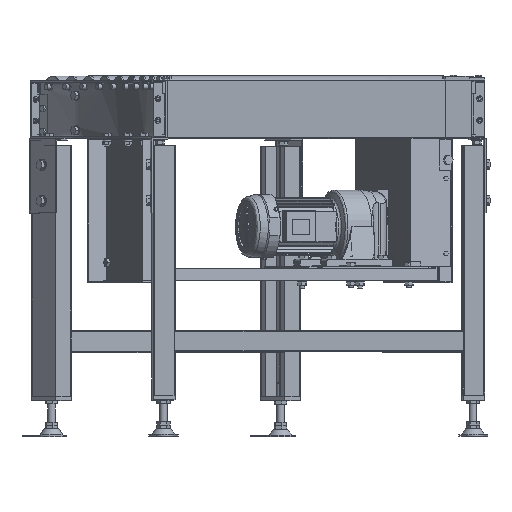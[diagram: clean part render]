
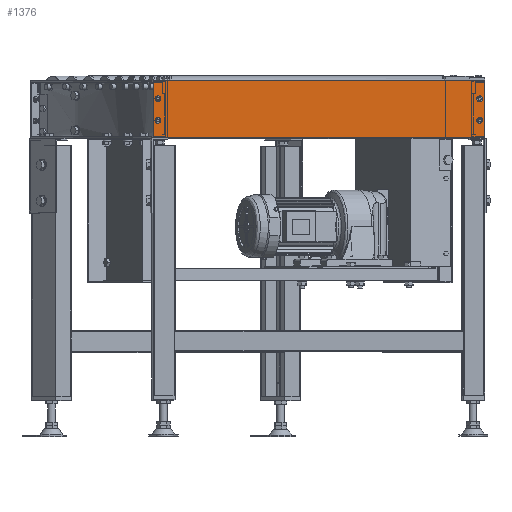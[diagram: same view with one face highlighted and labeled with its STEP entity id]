
A CAD part, top view. The second image highlights one B-rep face of the part: STEP entity #1376.
In plain terms, the highlighted planar face has unit normal (0, 0, 1).
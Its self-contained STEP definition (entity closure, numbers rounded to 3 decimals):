
#1376=ADVANCED_FACE('',(#9265,#9266,#9267,#9268,#9269),#9264,.F.);
#9264=PLANE('',#33990);
#9265=FACE_OUTER_BOUND('',#33991,.T.);
#9266=FACE_BOUND('',#33992,.T.);
#9267=FACE_BOUND('',#33993,.T.);
#9268=FACE_BOUND('',#33994,.T.);
#9269=FACE_BOUND('',#33995,.T.);
#33987=CARTESIAN_POINT('',(1570.,-140.,1.2));
#33988=DIRECTION('',(0.,0.,-1.));
#33989=DIRECTION('',(-1.,0.,0.));
#33990=AXIS2_PLACEMENT_3D('',#33987,#33988,#33989);
#33991=EDGE_LOOP('',(#48248,#48249,#48250,#48251));
#33992=EDGE_LOOP('',(#48252,#48253));
#33993=EDGE_LOOP('',(#48254,#48255));
#33994=EDGE_LOOP('',(#48256,#48257));
#33995=EDGE_LOOP('',(#48258,#48259));
#48248=ORIENTED_EDGE('',*,*,#60514,.F.);
#48249=ORIENTED_EDGE('',*,*,#60526,.F.);
#48250=ORIENTED_EDGE('',*,*,#59671,.F.);
#48251=ORIENTED_EDGE('',*,*,#60525,.F.);
#48252=ORIENTED_EDGE('',*,*,#59147,.T.);
#48253=ORIENTED_EDGE('',*,*,#59148,.T.);
#48254=ORIENTED_EDGE('',*,*,#59156,.T.);
#48255=ORIENTED_EDGE('',*,*,#59157,.T.);
#48256=ORIENTED_EDGE('',*,*,#59153,.T.);
#48257=ORIENTED_EDGE('',*,*,#59154,.T.);
#48258=ORIENTED_EDGE('',*,*,#59150,.T.);
#48259=ORIENTED_EDGE('',*,*,#59151,.T.);
#59147=EDGE_CURVE('',#66940,#66933,#66941,.T.);
#59148=EDGE_CURVE('',#66933,#66940,#66947,.T.);
#59150=EDGE_CURVE('',#66960,#66953,#66961,.T.);
#59151=EDGE_CURVE('',#66953,#66960,#66967,.T.);
#59153=EDGE_CURVE('',#66980,#66973,#66981,.T.);
#59154=EDGE_CURVE('',#66973,#66980,#66987,.T.);
#59156=EDGE_CURVE('',#67000,#66993,#67001,.T.);
#59157=EDGE_CURVE('',#66993,#67000,#67007,.T.);
#59671=EDGE_CURVE('',#70465,#70472,#70473,.T.);
#60514=EDGE_CURVE('',#76072,#76079,#76080,.T.);
#60525=EDGE_CURVE('',#76079,#70465,#76149,.T.);
#60526=EDGE_CURVE('',#70472,#76072,#76155,.T.);
#66933=VERTEX_POINT('',#113656);
#66940=VERTEX_POINT('',#113659);
#66941=CIRCLE('',#113663,3.);
#66947=CIRCLE('',#113667,3.);
#66953=VERTEX_POINT('',#113668);
#66960=VERTEX_POINT('',#113671);
#66961=CIRCLE('',#113675,3.);
#66967=CIRCLE('',#113679,3.);
#66973=VERTEX_POINT('',#113680);
#66980=VERTEX_POINT('',#113683);
#66981=CIRCLE('',#113687,3.);
#66987=CIRCLE('',#113691,3.);
#66993=VERTEX_POINT('',#113692);
#67000=VERTEX_POINT('',#113695);
#67001=CIRCLE('',#113699,3.);
#67007=CIRCLE('',#113703,3.);
#70465=VERTEX_POINT('',#119607);
#70472=VERTEX_POINT('',#119611);
#70473=LINE('',#119612,#119613);
#76072=VERTEX_POINT('',#122921);
#76079=VERTEX_POINT('',#122925);
#76080=LINE('',#122926,#122927);
#76149=LINE('',#122964,#122965);
#76155=LINE('',#122967,#122968);
#113656=CARTESIAN_POINT('',(1552.7,-93.5,1.2));
#113659=CARTESIAN_POINT('',(1546.7,-93.5,1.2));
#113660=CARTESIAN_POINT('',(1549.7,-93.5,1.2));
#113661=DIRECTION('',(0.,0.,-1.));
#113662=DIRECTION('',(-1.,0.,0.));
#113663=AXIS2_PLACEMENT_3D('',#113660,#113661,#113662);
#113664=CARTESIAN_POINT('',(1549.7,-93.5,1.2));
#113665=DIRECTION('',(0.,0.,-1.));
#113666=DIRECTION('',(-1.,0.,0.));
#113667=AXIS2_PLACEMENT_3D('',#113664,#113665,#113666);
#113668=CARTESIAN_POINT('',(1552.7,-48.5,1.2));
#113671=CARTESIAN_POINT('',(1546.7,-48.5,1.2));
#113672=CARTESIAN_POINT('',(1549.7,-48.5,1.2));
#113673=DIRECTION('',(0.,0.,-1.));
#113674=DIRECTION('',(-1.,0.,0.));
#113675=AXIS2_PLACEMENT_3D('',#113672,#113673,#113674);
#113676=CARTESIAN_POINT('',(1549.7,-48.5,1.2));
#113677=DIRECTION('',(0.,0.,-1.));
#113678=DIRECTION('',(-1.,0.,0.));
#113679=AXIS2_PLACEMENT_3D('',#113676,#113677,#113678);
#113680=CARTESIAN_POINT('',(880.306,-96.5,1.2));
#113683=CARTESIAN_POINT('',(877.306,-93.5,1.2));
#113684=CARTESIAN_POINT('',(880.306,-93.5,1.2));
#113685=DIRECTION('',(0.,0.,-1.));
#113686=DIRECTION('',(-1.,0.,0.));
#113687=AXIS2_PLACEMENT_3D('',#113684,#113685,#113686);
#113688=CARTESIAN_POINT('',(880.306,-93.5,1.2));
#113689=DIRECTION('',(0.,0.,-1.));
#113690=DIRECTION('',(-1.,0.,0.));
#113691=AXIS2_PLACEMENT_3D('',#113688,#113689,#113690);
#113692=CARTESIAN_POINT('',(880.306,-51.5,1.2));
#113695=CARTESIAN_POINT('',(877.306,-48.5,1.2));
#113696=CARTESIAN_POINT('',(880.306,-48.5,1.2));
#113697=DIRECTION('',(0.,0.,-1.));
#113698=DIRECTION('',(-1.,0.,0.));
#113699=AXIS2_PLACEMENT_3D('',#113696,#113697,#113698);
#113700=CARTESIAN_POINT('',(880.306,-48.5,1.2));
#113701=DIRECTION('',(0.,0.,-1.));
#113702=DIRECTION('',(-1.,0.,0.));
#113703=AXIS2_PLACEMENT_3D('',#113700,#113701,#113702);
#119607=CARTESIAN_POINT('',(870.,-10.,1.2));
#119611=CARTESIAN_POINT('',(1560.,-10.,1.2));
#119612=CARTESIAN_POINT('',(870.,-10.,1.2));
#119613=VECTOR('',#119614,690.);
#119614=DIRECTION('',(1.,0.,0.));
#122921=CARTESIAN_POINT('',(1560.,-130.,1.2));
#122925=CARTESIAN_POINT('',(870.,-130.,1.2));
#122926=CARTESIAN_POINT('',(1560.,-130.,1.2));
#122927=VECTOR('',#122928,690.);
#122928=DIRECTION('',(-1.,0.,0.));
#122964=CARTESIAN_POINT('',(870.,-130.,1.2));
#122965=VECTOR('',#122966,120.);
#122966=DIRECTION('',(0.,1.,0.));
#122967=CARTESIAN_POINT('',(1560.,-10.,1.2));
#122968=VECTOR('',#122969,120.);
#122969=DIRECTION('',(0.,-1.,0.));
